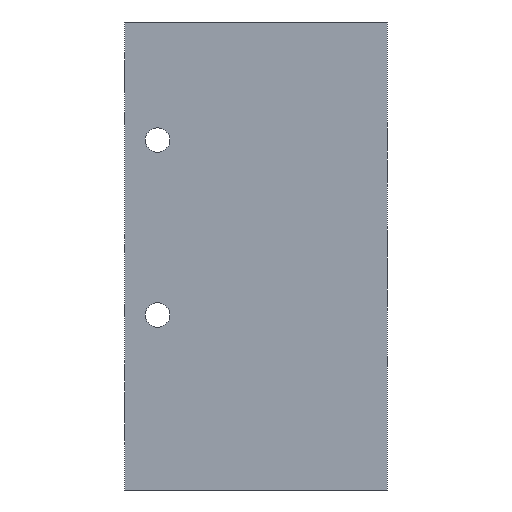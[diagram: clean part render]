
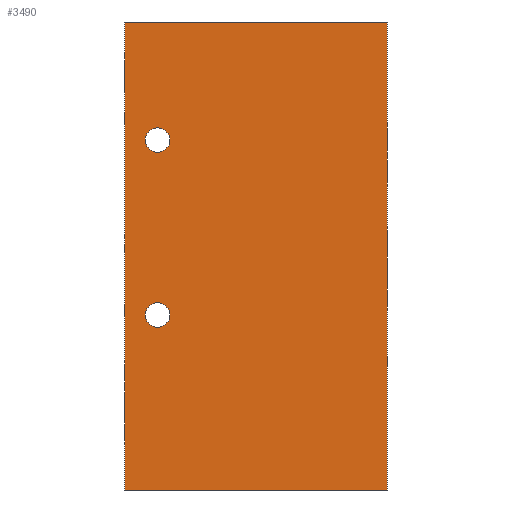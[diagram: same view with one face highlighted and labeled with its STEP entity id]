
A CAD part, front view. The second image highlights one B-rep face of the part: STEP entity #3490.
In plain terms, the highlighted planar face has unit normal (0, -1, 0).
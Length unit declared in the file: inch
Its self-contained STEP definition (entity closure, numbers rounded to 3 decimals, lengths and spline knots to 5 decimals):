
#164=CIRCLE('',#3689,0.14);
#166=CIRCLE('',#3692,0.14);
#367=FACE_BOUND('',#939,.T.);
#368=FACE_BOUND('',#940,.T.);
#369=FACE_BOUND('',#941,.T.);
#939=EDGE_LOOP('',(#2856));
#940=EDGE_LOOP('',(#2857));
#941=EDGE_LOOP('',(#2858,#2859,#2860,#2861));
#1249=LINE('',#5802,#1473);
#1251=LINE('',#5898,#1475);
#1255=LINE('',#6136,#1479);
#1257=LINE('',#6158,#1481);
#1473=VECTOR('',#4239,5.3498);
#1475=VECTOR('',#4315,5.3498);
#1479=VECTOR('',#4401,3.);
#1481=VECTOR('',#4429,3.);
#1666=VERTEX_POINT('',#5795);
#1669=VERTEX_POINT('',#5800);
#1691=VERTEX_POINT('',#5895);
#1692=VERTEX_POINT('',#5897);
#1704=VERTEX_POINT('',#6060);
#1706=VERTEX_POINT('',#6065);
#2061=EDGE_CURVE('',#1669,#1666,#1249,.T.);
#2083=EDGE_CURVE('',#1692,#1691,#1251,.T.);
#2098=EDGE_CURVE('',#1704,#1704,#164,.T.);
#2100=EDGE_CURVE('',#1706,#1706,#166,.T.);
#2114=EDGE_CURVE('',#1692,#1669,#1255,.T.);
#2123=EDGE_CURVE('',#1691,#1666,#1257,.T.);
#2856=ORIENTED_EDGE('',*,*,#2098,.T.);
#2857=ORIENTED_EDGE('',*,*,#2100,.T.);
#2858=ORIENTED_EDGE('',*,*,#2123,.T.);
#2859=ORIENTED_EDGE('',*,*,#2061,.F.);
#2860=ORIENTED_EDGE('',*,*,#2114,.F.);
#2861=ORIENTED_EDGE('',*,*,#2083,.T.);
#3148=PLANE('',#3760);
#3490=ADVANCED_FACE('',(#367,#368,#369),#3148,.T.);
#3689=AXIS2_PLACEMENT_3D('',#6061,#4348,#4349);
#3692=AXIS2_PLACEMENT_3D('',#6066,#4354,#4355);
#3760=AXIS2_PLACEMENT_3D('',#6205,#4494,#4495);
#4239=DIRECTION('',(0.,0.,1.));
#4315=DIRECTION('',(0.,0.,1.));
#4348=DIRECTION('center_axis',(0.,1.,0.));
#4349=DIRECTION('ref_axis',(1.,0.,0.));
#4354=DIRECTION('center_axis',(0.,1.,0.));
#4355=DIRECTION('ref_axis',(1.,0.,0.));
#4401=DIRECTION('',(-1.,0.,0.));
#4429=DIRECTION('',(-1.,0.,0.));
#4494=DIRECTION('center_axis',(0.,-1.,0.));
#4495=DIRECTION('ref_axis',(0.,0.,-1.));
#5795=CARTESIAN_POINT('',(-1.57,-1.,5.3498));
#5800=CARTESIAN_POINT('',(-1.57,-1.,0.));
#5802=CARTESIAN_POINT('',(-1.57,-1.,0.));
#5895=CARTESIAN_POINT('',(1.43,-1.,5.3498));
#5897=CARTESIAN_POINT('',(1.43,-1.,0.));
#5898=CARTESIAN_POINT('',(1.43,-1.,0.));
#6060=CARTESIAN_POINT('',(-1.055,-1.,4.));
#6061=CARTESIAN_POINT('Origin',(-1.195,-1.,4.));
#6065=CARTESIAN_POINT('',(-1.055,-1.,2.));
#6066=CARTESIAN_POINT('Origin',(-1.195,-1.,2.));
#6136=CARTESIAN_POINT('',(1.43,-1.,0.));
#6158=CARTESIAN_POINT('',(1.43,-1.,5.3498));
#6205=CARTESIAN_POINT('Origin',(1.43,-1.,0.));
